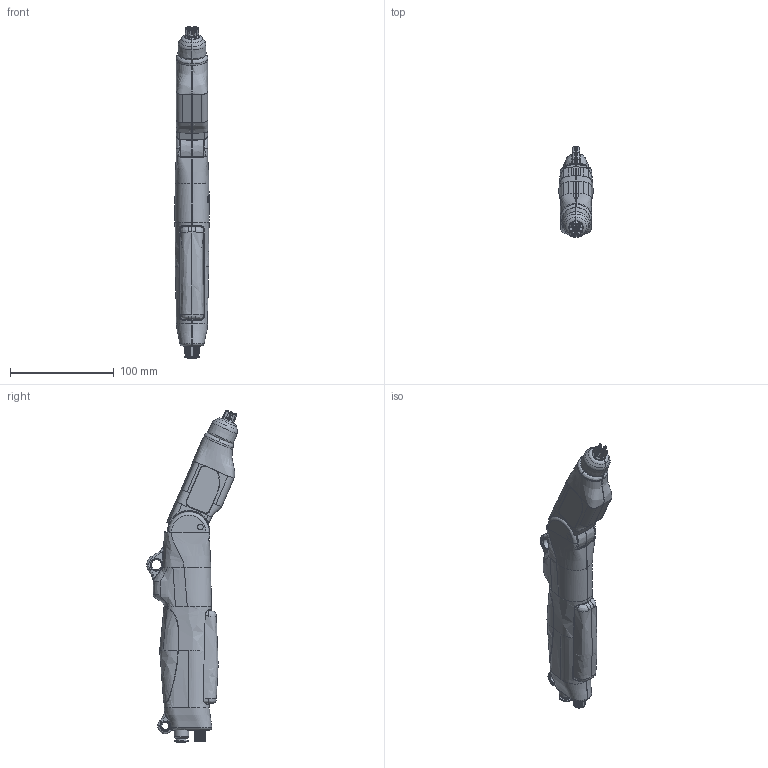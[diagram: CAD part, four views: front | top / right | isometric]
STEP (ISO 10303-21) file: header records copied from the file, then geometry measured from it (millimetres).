
FILE_DESCRIPTION (( 'STEP AP214' ), '1' );
FILE_NAME ('CleanflexEasy_Bend1_3D_GB.STEP', '2021-07-21T07:54:44', ( '' ), ( '' ), 'SwSTEP 2.0', 'SolidWorks 2021', '' );
FILE_SCHEMA (( 'AUTOMOTIVE_DESIGN' ));
Length unit declared in the file: millimetre
Products named in the file (1): CleanflexEasy_Bend1_3D_GB
Bounding box: 33.12 x 87.64 x 320.29 mm (x, y, z)
Surface area: 53673.9 mm2 (no closed solid volume)
Topology: 0 solids, 42 shells, 757 faces, 2670 edges, 1908 vertices
Faces by surface type: bspline 228, cylinder 210, plane 160, torus 84, cone 65, sphere 10
Entity records: 66488 total; most frequent: CARTESIAN_POINT 38061, ORIENTED_EDGE 4314, DIRECTION 3481, EDGE_CURVE 2662, VERTEX_POINT 1908, AXIS2_PLACEMENT_3D 1385, B_SPLINE_CURVE_WITH_KNOTS 1059, CIRCLE 855
